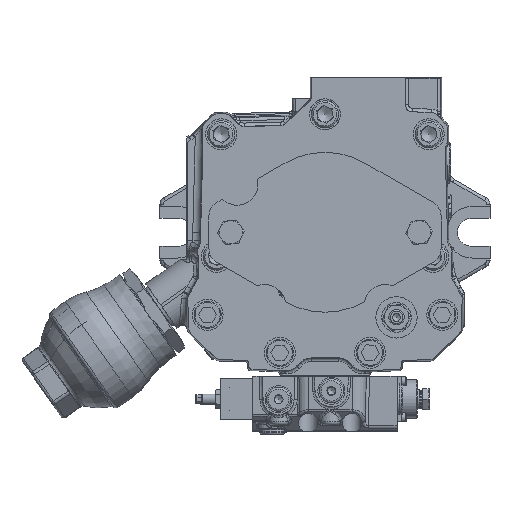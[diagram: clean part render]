
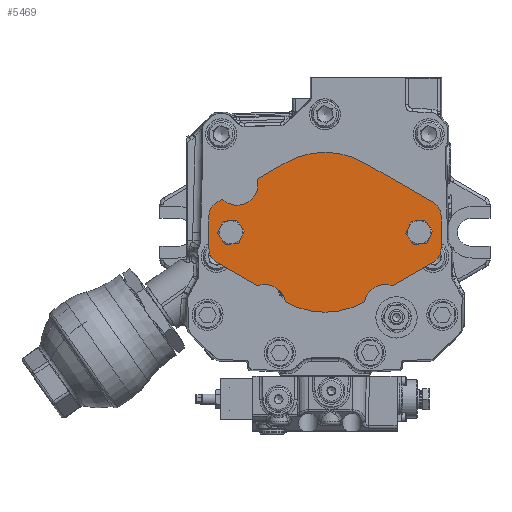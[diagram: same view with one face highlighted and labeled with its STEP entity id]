
A CAD part, front view. The second image highlights one B-rep face of the part: STEP entity #5469.
In plain terms, the highlighted planar face has unit normal (0, -1, 0) as drawn and (0, 0, -1) by its records, which use the part's own axes.
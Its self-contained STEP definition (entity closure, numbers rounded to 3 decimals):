
#5469=ADVANCED_FACE('',(#14609,#14610,#14611),#8225,.T.);
#8225=PLANE('',#43052);
#9345=LINE('',#59890,#11964);
#9346=LINE('',#59894,#11965);
#9347=LINE('',#59898,#11966);
#9348=LINE('',#59902,#11967);
#9349=LINE('',#59906,#11968);
#9350=LINE('',#59910,#11969);
#9351=LINE('',#59914,#11970);
#11964=VECTOR('',#47802,1.);
#11965=VECTOR('',#47805,1.);
#11966=VECTOR('',#47808,1.);
#11967=VECTOR('',#47811,1.);
#11968=VECTOR('',#47814,1.);
#11969=VECTOR('',#47817,1.);
#11970=VECTOR('',#47820,1.);
#14609=FACE_BOUND('',#16014,.T.);
#14610=FACE_BOUND('',#16015,.T.);
#14611=FACE_BOUND('',#16016,.T.);
#16014=EDGE_LOOP('',(#19484));
#16015=EDGE_LOOP('',(#19485,#19486,#19487,#19488,#19489,#19490,#19491,#19492,
#19493,#19494,#19495,#19496,#19497,#19498,#19499,#19500));
#16016=EDGE_LOOP('',(#19501));
#19484=ORIENTED_EDGE('',*,*,#35193,.T.);
#19485=ORIENTED_EDGE('',*,*,#35194,.T.);
#19486=ORIENTED_EDGE('',*,*,#35195,.T.);
#19487=ORIENTED_EDGE('',*,*,#35196,.T.);
#19488=ORIENTED_EDGE('',*,*,#35197,.T.);
#19489=ORIENTED_EDGE('',*,*,#35198,.T.);
#19490=ORIENTED_EDGE('',*,*,#35199,.F.);
#19491=ORIENTED_EDGE('',*,*,#35200,.T.);
#19492=ORIENTED_EDGE('',*,*,#35201,.F.);
#19493=ORIENTED_EDGE('',*,*,#35202,.F.);
#19494=ORIENTED_EDGE('',*,*,#35203,.T.);
#19495=ORIENTED_EDGE('',*,*,#35204,.T.);
#19496=ORIENTED_EDGE('',*,*,#35205,.T.);
#19497=ORIENTED_EDGE('',*,*,#35206,.T.);
#19498=ORIENTED_EDGE('',*,*,#35207,.T.);
#19499=ORIENTED_EDGE('',*,*,#35208,.T.);
#19500=ORIENTED_EDGE('',*,*,#35209,.F.);
#19501=ORIENTED_EDGE('',*,*,#35210,.T.);
#31290=VERTEX_POINT('',#59882);
#31291=VERTEX_POINT('',#59884);
#31292=VERTEX_POINT('',#59885);
#31293=VERTEX_POINT('',#59887);
#31294=VERTEX_POINT('',#59889);
#31295=VERTEX_POINT('',#59891);
#31296=VERTEX_POINT('',#59893);
#31297=VERTEX_POINT('',#59895);
#31298=VERTEX_POINT('',#59897);
#31299=VERTEX_POINT('',#59899);
#31300=VERTEX_POINT('',#59901);
#31301=VERTEX_POINT('',#59903);
#31302=VERTEX_POINT('',#59905);
#31303=VERTEX_POINT('',#59907);
#31304=VERTEX_POINT('',#59909);
#31305=VERTEX_POINT('',#59911);
#31306=VERTEX_POINT('',#59913);
#31307=VERTEX_POINT('',#59916);
#35193=EDGE_CURVE('',#31290,#31290,#41095,.T.);
#35194=EDGE_CURVE('',#31291,#31292,#41096,.T.);
#35195=EDGE_CURVE('',#31292,#31293,#41097,.T.);
#35196=EDGE_CURVE('',#31293,#31294,#41098,.T.);
#35197=EDGE_CURVE('',#31294,#31295,#9345,.T.);
#35198=EDGE_CURVE('',#31295,#31296,#41099,.T.);
#35199=EDGE_CURVE('',#31297,#31296,#9346,.T.);
#35200=EDGE_CURVE('',#31297,#31298,#41100,.T.);
#35201=EDGE_CURVE('',#31299,#31298,#9347,.T.);
#35202=EDGE_CURVE('',#31300,#31299,#41101,.T.);
#35203=EDGE_CURVE('',#31300,#31301,#9348,.T.);
#35204=EDGE_CURVE('',#31301,#31302,#41102,.T.);
#35205=EDGE_CURVE('',#31302,#31303,#9349,.T.);
#35206=EDGE_CURVE('',#31303,#31304,#41103,.T.);
#35207=EDGE_CURVE('',#31304,#31305,#9350,.T.);
#35208=EDGE_CURVE('',#31305,#31306,#41104,.T.);
#35209=EDGE_CURVE('',#31291,#31306,#9351,.T.);
#35210=EDGE_CURVE('',#31307,#31307,#41105,.T.);
#41095=CIRCLE('',#43041,8.015);
#41096=CIRCLE('',#43042,16.);
#41097=CIRCLE('',#43043,62.);
#41098=CIRCLE('',#43044,16.);
#41099=CIRCLE('',#43045,12.);
#41100=CIRCLE('',#43046,12.);
#41101=CIRCLE('',#43047,62.);
#41102=CIRCLE('',#43048,16.);
#41103=CIRCLE('',#43049,12.);
#41104=CIRCLE('',#43050,12.);
#41105=CIRCLE('',#43051,8.015);
#43041=AXIS2_PLACEMENT_3D('',#59881,#47794,#47795);
#43042=AXIS2_PLACEMENT_3D('',#59883,#47796,#47797);
#43043=AXIS2_PLACEMENT_3D('',#59886,#47798,#47799);
#43044=AXIS2_PLACEMENT_3D('',#59888,#47800,#47801);
#43045=AXIS2_PLACEMENT_3D('',#59892,#47803,#47804);
#43046=AXIS2_PLACEMENT_3D('',#59896,#47806,#47807);
#43047=AXIS2_PLACEMENT_3D('',#59900,#47809,#47810);
#43048=AXIS2_PLACEMENT_3D('',#59904,#47812,#47813);
#43049=AXIS2_PLACEMENT_3D('',#59908,#47815,#47816);
#43050=AXIS2_PLACEMENT_3D('',#59912,#47818,#47819);
#43051=AXIS2_PLACEMENT_3D('',#59915,#47821,#47822);
#43052=AXIS2_PLACEMENT_3D('',#59917,#47823,#47824);
#47794=DIRECTION('',(0.,0.,1.));
#47795=DIRECTION('',(-0.093,-0.996,0.));
#47796=DIRECTION('',(0.,0.,1.));
#47797=DIRECTION('',(1.,0.,0.));
#47798=DIRECTION('',(0.,0.,-1.));
#47799=DIRECTION('',(-1.,0.,0.));
#47800=DIRECTION('',(0.,0.,1.));
#47801=DIRECTION('',(1.,0.,0.));
#47802=DIRECTION('',(0.866,-0.5,0.));
#47803=DIRECTION('',(0.,0.,-1.));
#47804=DIRECTION('',(-1.,0.,0.));
#47805=DIRECTION('',(0.,1.,0.));
#47806=DIRECTION('',(0.,0.,-1.));
#47807=DIRECTION('',(-1.,0.,0.));
#47808=DIRECTION('',(0.866,0.5,0.));
#47809=DIRECTION('',(0.,0.,1.));
#47810=DIRECTION('',(-1.,0.,0.));
#47811=DIRECTION('',(-0.866,0.5,0.));
#47812=DIRECTION('',(0.,0.,1.));
#47813=DIRECTION('',(1.,0.,0.));
#47814=DIRECTION('',(-0.866,0.5,0.));
#47815=DIRECTION('',(0.,0.,-1.));
#47816=DIRECTION('',(-1.,0.,0.));
#47817=DIRECTION('',(0.,1.,0.));
#47818=DIRECTION('',(0.,0.,-1.));
#47819=DIRECTION('',(-1.,0.,0.));
#47820=DIRECTION('',(-0.866,-0.5,0.));
#47821=DIRECTION('',(0.,0.,1.));
#47822=DIRECTION('',(-0.093,-0.996,0.));
#47823=DIRECTION('',(0.,0.,-1.));
#47824=DIRECTION('',(-1.,0.,0.));
#59881=CARTESIAN_POINT('',(73.,0.,-80.));
#59882=CARTESIAN_POINT('',(72.257,-7.981,-80.));
#59883=CARTESIAN_POINT('',(-46.5,56.5,-80.));
#59884=CARTESIAN_POINT('',(-52.099,41.512,-80.));
#59885=CARTESIAN_POINT('',(-30.72,53.854,-80.));
#59886=CARTESIAN_POINT('',(0.,0.,-80.));
#59887=CARTESIAN_POINT('',(30.72,53.854,-80.));
#59888=CARTESIAN_POINT('',(46.5,56.5,-80.));
#59889=CARTESIAN_POINT('',(52.099,41.512,-80.));
#59890=CARTESIAN_POINT('',(31.,53.694,-80.));
#59891=CARTESIAN_POINT('',(84.,23.094,-80.));
#59892=CARTESIAN_POINT('',(78.,12.702,-80.));
#59893=CARTESIAN_POINT('',(90.,12.702,-80.));
#59894=CARTESIAN_POINT('',(90.,-19.63,-80.));
#59895=CARTESIAN_POINT('',(90.,-12.702,-80.));
#59896=CARTESIAN_POINT('',(78.,-12.702,-80.));
#59897=CARTESIAN_POINT('',(84.,-23.094,-80.));
#59898=CARTESIAN_POINT('',(31.,-53.694,-80.));
#59899=CARTESIAN_POINT('',(31.,-53.694,-80.));
#59900=CARTESIAN_POINT('',(0.,0.,-80.));
#59901=CARTESIAN_POINT('',(-31.,-53.694,-80.));
#59902=CARTESIAN_POINT('',(-31.,-53.694,-80.));
#59903=CARTESIAN_POINT('',(-52.572,-41.239,-80.));
#59904=CARTESIAN_POINT('',(-68.,-37.,-80.));
#59905=CARTESIAN_POINT('',(-79.385,-25.758,-80.));
#59906=CARTESIAN_POINT('',(-31.,-53.694,-80.));
#59907=CARTESIAN_POINT('',(-84.,-23.094,-80.));
#59908=CARTESIAN_POINT('',(-78.,-12.702,-80.));
#59909=CARTESIAN_POINT('',(-90.,-12.702,-80.));
#59910=CARTESIAN_POINT('',(-90.,-19.63,-80.));
#59911=CARTESIAN_POINT('',(-90.,12.702,-80.));
#59912=CARTESIAN_POINT('',(-78.,12.702,-80.));
#59913=CARTESIAN_POINT('',(-84.,23.094,-80.));
#59914=CARTESIAN_POINT('',(-31.,53.694,-80.));
#59915=CARTESIAN_POINT('',(-73.,0.,-80.));
#59916=CARTESIAN_POINT('',(-73.743,-7.981,-80.));
#59917=CARTESIAN_POINT('',(0.,0.,-80.));
